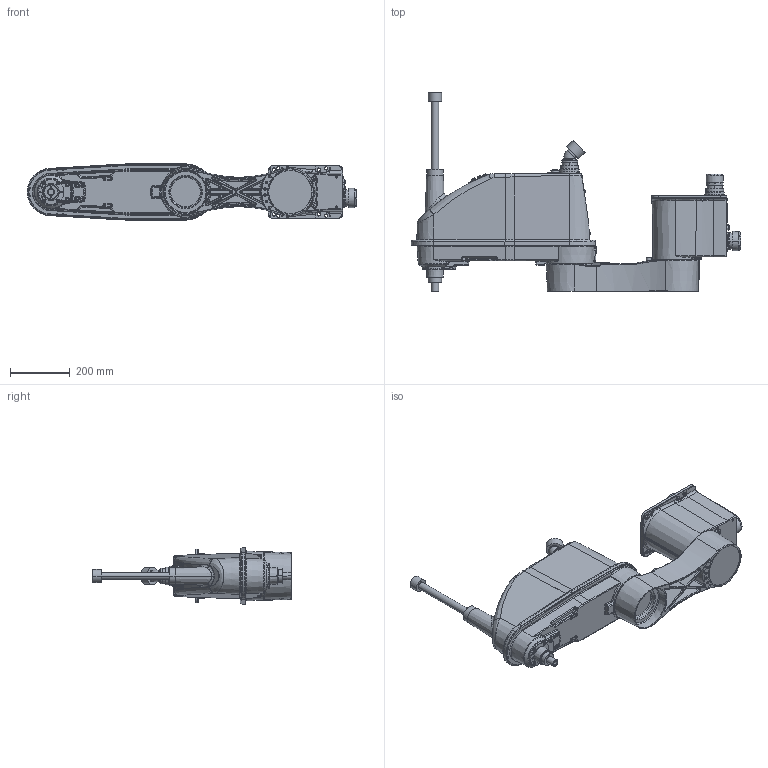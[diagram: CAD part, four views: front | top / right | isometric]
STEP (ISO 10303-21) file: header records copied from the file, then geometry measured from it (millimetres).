
FILE_DESCRIPTION((''),'2;1');
FILE_NAME('THE800-T_3D_ASM','2025-10-06T17:31:09',('15097'),(''),'CREO PARAMETRIC BY PTC INC, 2020454','CREO PARAMETRIC BY PTC INC, 2020454','');
FILE_SCHEMA(('AUTOMOTIVE_DESIGN { 1 0 10303 214 1 1 1 1 }'));
Products named in the file (5): THE800-T_BASE_HP; THE800-T_1STARM_HP; THE800-T_2NDARM_HP; THE800-T_BNS_HP; THE800-T_3D_ASM
Assembly tree (4 placements, depth 2):
  THE800-T_3D_ASM
    THE800-T_BASE_HP
    THE800-T_1STARM_HP
    THE800-T_2NDARM_HP
    THE800-T_BNS_HP
Bounding box: 1101 x 665 x 188 mm (x, y, z)
Volume: 14129249.3 mm3; surface area: 2008619.2 mm2
Topology: 4 solids, 38 shells, 3698 faces, 8709 edges, 5328 vertices
Faces by surface type: cylinder 1329, plane 1281, bspline 399, torus 340, cone 229, sphere 116, revolution 2, extrusion 2
Entity records: 148765 total; most frequent: CARTESIAN_POINT 47001, DIRECTION 17536, ORIENTED_EDGE 17230, EDGE_CURVE 8615, AXIS2_PLACEMENT_3D 6827, VERTEX_POINT 5304, EDGE_LOOP 4135, VECTOR 3865
